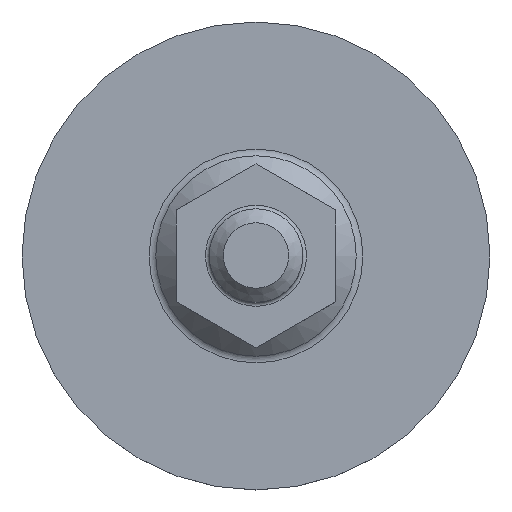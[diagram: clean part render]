
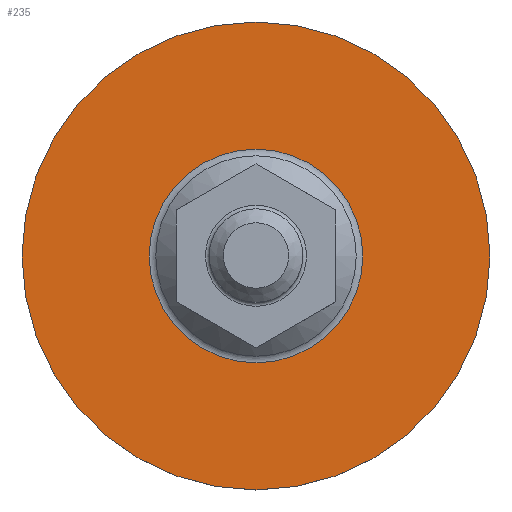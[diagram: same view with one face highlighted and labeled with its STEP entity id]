
A CAD part, top view. The second image highlights one B-rep face of the part: STEP entity #235.
In plain terms, the highlighted planar face has unit normal (0, 0, 1).
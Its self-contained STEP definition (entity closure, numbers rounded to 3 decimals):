
#235=ADVANCED_FACE('',(#373,#375),#377,.T.);
#373=FACE_BOUND('',#374,.T.);
#374=EDGE_LOOP('',(#925));
#375=FACE_BOUND('',#376,.T.);
#376=EDGE_LOOP('',(#926));
#377=PLANE('',#378);
#378=AXIS2_PLACEMENT_3D('',#379,#380,#381);
#379=CARTESIAN_POINT('',(0.,0.,2.));
#380=DIRECTION('',(0.,0.,1.));
#381=DIRECTION('',(-1.,0.,0.));
#925=ORIENTED_EDGE('',*,*,#1130,.T.);
#926=ORIENTED_EDGE('',*,*,#1128,.F.);
#1128=EDGE_CURVE('',#1244,#1244,#1245,.T.);
#1130=EDGE_CURVE('',#1248,#1248,#1249,.T.);
#1244=VERTEX_POINT('',#1459);
#1245=CIRCLE('',#1460,11.414);
#1248=VERTEX_POINT('',#1469);
#1249=CIRCLE('',#1470,25.);
#1459=CARTESIAN_POINT('',(-11.414,0.,2.));
#1460=AXIS2_PLACEMENT_3D('',#1461,#1462,#1463);
#1461=CARTESIAN_POINT('',(0.,0.,2.));
#1462=DIRECTION('',(0.,0.,1.));
#1463=DIRECTION('',(-1.,0.,0.));
#1469=CARTESIAN_POINT('',(-25.,0.,2.));
#1470=AXIS2_PLACEMENT_3D('',#1471,#1472,#1473);
#1471=CARTESIAN_POINT('',(0.,0.,2.));
#1472=DIRECTION('',(0.,0.,1.));
#1473=DIRECTION('',(-1.,0.,0.));
